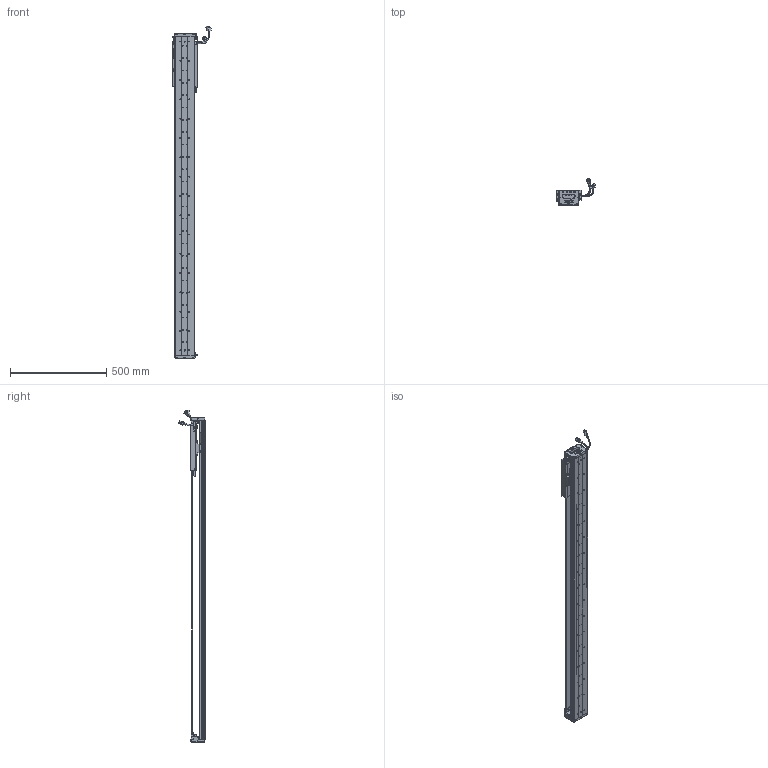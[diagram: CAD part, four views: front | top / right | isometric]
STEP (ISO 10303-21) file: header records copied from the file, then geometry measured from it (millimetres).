
FILE_DESCRIPTION (( 'STEP AP203' ), '1' );
FILE_NAME ('Z3-RY100D-1-L500-B-K.SLDASM_1350.step', '2021-05-17T02:50:44', ( '盈信电脑' ), ( '东莞市道滘镇水果街19号' ), 'SwSTEP 2.0', 'SolidWorks 2016', '' );
FILE_SCHEMA (( 'CONFIG_CONTROL_DESIGN' ));
Length unit declared in the file: millimetre
Products named in the file (36): LABEL-Part-1; SCREW-M1.6-3; SCREW-M1.6; SEAL; PBU_SHEET; SCREW-M1.7-1; HARNESS; 140蚥薯蝶輸; SEAL-Part-1; PSLH080_PSLF2; 080黍杅芛假蚾釱21遴; COVER-Part-1; SCALE-Part-1; 覜茼ん672; SHIELDPLATE; SCALE-Part-2; Z-RY100D詩湍奻揤裔; HARNESS-Part-2; 榋妏寠巭燃_暯_M2_2; SCREW-M1.6-1; Z-RY100D覜茼んえ; SCREW-M1.6-2; Z3-RY100D-500-倰第菁釱_1350; Z3-RY100D-1-L500-B-K.SLDASM_1350; 140雄赽晤鎢ん堤盄; Z-100詩湍傷裔啣; 100-Z-臏賑輸盄裔(21遴); COVER; LABEL; Z3-RY100-L500詩湍90mm遵_1350; Z-RY100D詩湍狟揤裔; SCALE; HARNESS-Part-1; SCREW-M1.7; Z3-RY100铝滑块（21款）; HOLDER0
Assembly tree (43 placements, depth 4):
  Z3-RY100D-1-L500-B-K.SLDASM_1350
    Z3-RY100D-500-倰第菁釱_1350
    Z3-RY100铝滑块（21款）
    PSLH080_PSLF2
      SCALE
        SCALE-Part-1
        SCALE-Part-2
      HARNESS
        HARNESS-Part-1
        HARNESS-Part-2
      LABEL
        LABEL-Part-1
      COVER
        COVER-Part-1
      SEAL
        SEAL-Part-1
      榋妏寠巭燃_暯_M2_2
      SHIELDPLATE
      SCREW-M1.7
      SCREW-M1.7-1
      PBU_SHEET
      SCREW-M1.6
      SCREW-M1.6-1
      SCREW-M1.6-2
      SCREW-M1.6-3
      HOLDER0
    080黍杅芛假蚾釱21遴
    Z-100詩湍傷裔啣  x2
    140蚥薯蝶輸  x2
    覜茼ん672  x3
    Z-RY100D覜茼んえ  x3
    100-Z-臏賑輸盄裔(21遴)
    140雄赽晤鎢ん堤盄
    Z3-RY100-L500詩湍90mm遵_1350
    Z-RY100D詩湍狟揤裔  x2
    Z-RY100D詩湍奻揤裔  x2
Bounding box: 205.83 x 136.11 x 1720.43 mm (x, y, z)
Volume: 3375005.6 mm3; surface area: 1309815.4 mm2
Topology: 38 solids, 38 shells, 2753 faces, 7345 edges, 4664 vertices
Faces by surface type: cylinder 1258, plane 1147, cone 226, torus 69, bspline 53
Entity records: 76859 total; most frequent: CARTESIAN_POINT 16157, DIRECTION 12267, ORIENTED_EDGE 11570, EDGE_CURVE 5785, AXIS2_PLACEMENT_3D 4554, VERTEX_POINT 3732, LINE 3159, VECTOR 3159
